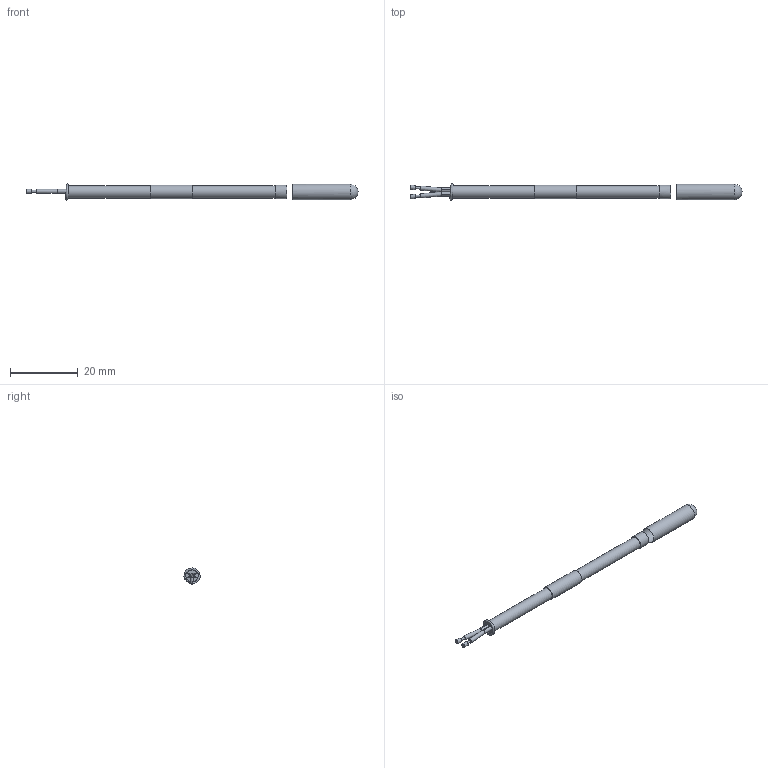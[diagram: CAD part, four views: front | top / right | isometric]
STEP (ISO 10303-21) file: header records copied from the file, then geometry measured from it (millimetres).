
FILE_DESCRIPTION(/* description */ (''),/* implementation_level */ '2;1');
FILE_NAME(/* name */ 'R:\Temp\J. Narvaez\IAN DRAWINGS\002 - Sensors\001 - MCS-T100\MCS-T100.stp',/* time_stamp */ '2022-11-14T09:41:22-05:00',/* author */ ('mjeter'),/* organization */ ('unknown'),/* preprocessor_version */ 'ST-DEVELOPER v19',/* originating_system */ 'Autodesk Inventor 2023',/* authorisation */ '');
FILE_SCHEMA (('AUTOMOTIVE_DESIGN { 1 0 10303 214 3 1 1 }'));
Length unit declared in the file: inch
Products named in the file (1): MCS-T100
Bounding box: 98.11 x 4.76 x 4.77 mm (x, y, z)
Volume: 1051.3 mm3; surface area: 1184.6 mm2
Topology: 1 solids, 1 shells, 38 faces, 83 edges, 49 vertices
Faces by surface type: cylinder 19, plane 12, sphere 5, bspline 1, cone 1
Full cylindrical faces by diameter (mm): 0.613 x3, 1.226 x4, 3.556 x2, 3.985 x1, 4.046 x1, 4.598 x1
Entity records: 1458 total; most frequent: CARTESIAN_POINT 549, DIRECTION 197, ORIENTED_EDGE 164, AXIS2_PLACEMENT_3D 87, EDGE_CURVE 82, VERTEX_POINT 50, EDGE_LOOP 45, CIRCLE 45
